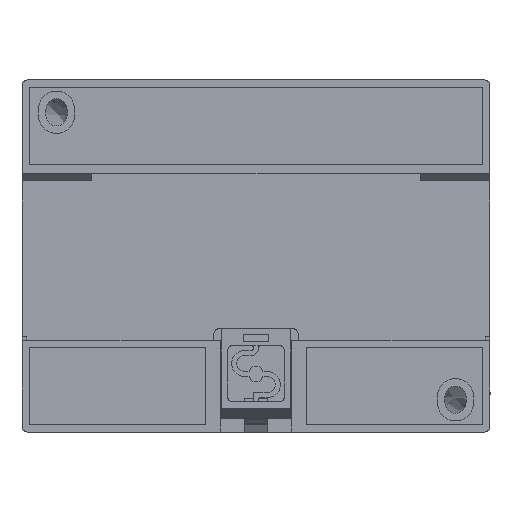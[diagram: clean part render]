
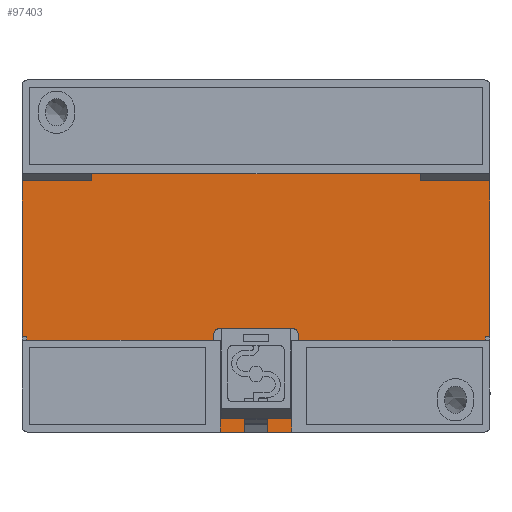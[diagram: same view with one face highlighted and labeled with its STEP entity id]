
A CAD part, front view. The second image highlights one B-rep face of the part: STEP entity #97403.
In plain terms, the highlighted planar face has unit normal (0, -1, 0).
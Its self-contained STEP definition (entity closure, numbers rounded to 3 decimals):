
#8968=CIRCLE('',#100996,1.);
#8969=CIRCLE('',#100997,1.);
#14121=FACE_OUTER_BOUND('',#19732,.T.);
#19732=EDGE_LOOP('',(#88684,#88685,#88686,#88687,#88688,#88689,#88690,#88691,
#88692,#88693,#88694,#88695,#88696,#88697,#88698,#88699,#88700,#88701,#88702,
#88703,#88704,#88705));
#28362=LINE('',#190628,#37208);
#28363=LINE('',#190630,#37209);
#28364=LINE('',#190632,#37210);
#28365=LINE('',#190634,#37211);
#28366=LINE('',#190636,#37212);
#28367=LINE('',#190638,#37213);
#28368=LINE('',#190640,#37214);
#28369=LINE('',#190641,#37215);
#28370=LINE('',#190643,#37216);
#28371=LINE('',#190645,#37217);
#28372=LINE('',#190649,#37218);
#28373=LINE('',#190653,#37219);
#28374=LINE('',#190654,#37220);
#28375=LINE('',#190656,#37221);
#28376=LINE('',#190658,#37222);
#28377=LINE('',#190660,#37223);
#28378=LINE('',#190662,#37224);
#28379=LINE('',#190664,#37225);
#28380=LINE('',#190666,#37226);
#28381=LINE('',#190667,#37227);
#37208=VECTOR('',#116245,1000.);
#37209=VECTOR('',#116246,1000.);
#37210=VECTOR('',#116247,1000.);
#37211=VECTOR('',#116248,1000.);
#37212=VECTOR('',#116249,1000.);
#37213=VECTOR('',#116250,1000.);
#37214=VECTOR('',#116251,1000.);
#37215=VECTOR('',#116252,1000.);
#37216=VECTOR('',#116253,1000.);
#37217=VECTOR('',#116254,1000.);
#37218=VECTOR('',#116257,1000.);
#37219=VECTOR('',#116260,1000.);
#37220=VECTOR('',#116261,1000.);
#37221=VECTOR('',#116262,1000.);
#37222=VECTOR('',#116263,1000.);
#37223=VECTOR('',#116264,1000.);
#37224=VECTOR('',#116265,1000.);
#37225=VECTOR('',#116266,1000.);
#37226=VECTOR('',#116267,1000.);
#37227=VECTOR('',#116268,1000.);
#46666=VERTEX_POINT('',#190616);
#46667=VERTEX_POINT('',#190618);
#46670=VERTEX_POINT('',#190626);
#46671=VERTEX_POINT('',#190627);
#46672=VERTEX_POINT('',#190629);
#46673=VERTEX_POINT('',#190631);
#46674=VERTEX_POINT('',#190633);
#46675=VERTEX_POINT('',#190635);
#46676=VERTEX_POINT('',#190637);
#46677=VERTEX_POINT('',#190639);
#46678=VERTEX_POINT('',#190642);
#46679=VERTEX_POINT('',#190644);
#46680=VERTEX_POINT('',#190646);
#46681=VERTEX_POINT('',#190648);
#46682=VERTEX_POINT('',#190650);
#46683=VERTEX_POINT('',#190652);
#46684=VERTEX_POINT('',#190655);
#46685=VERTEX_POINT('',#190657);
#46686=VERTEX_POINT('',#190659);
#46687=VERTEX_POINT('',#190661);
#46688=VERTEX_POINT('',#190663);
#46689=VERTEX_POINT('',#190665);
#60736=EDGE_CURVE('',#46670,#46671,#28362,.T.);
#60737=EDGE_CURVE('',#46672,#46670,#28363,.T.);
#60738=EDGE_CURVE('',#46672,#46673,#28364,.T.);
#60739=EDGE_CURVE('',#46674,#46673,#28365,.T.);
#60740=EDGE_CURVE('',#46674,#46675,#28366,.T.);
#60741=EDGE_CURVE('',#46676,#46675,#28367,.T.);
#60742=EDGE_CURVE('',#46677,#46676,#28368,.T.);
#60743=EDGE_CURVE('',#46667,#46677,#28369,.T.);
#60744=EDGE_CURVE('',#46667,#46678,#28370,.T.);
#60745=EDGE_CURVE('',#46678,#46679,#28371,.T.);
#60746=EDGE_CURVE('',#46679,#46680,#8968,.T.);
#60747=EDGE_CURVE('',#46681,#46680,#28372,.T.);
#60748=EDGE_CURVE('',#46681,#46682,#8969,.T.);
#60749=EDGE_CURVE('',#46683,#46682,#28373,.T.);
#60750=EDGE_CURVE('',#46683,#46666,#28374,.T.);
#60751=EDGE_CURVE('',#46666,#46684,#28375,.T.);
#60752=EDGE_CURVE('',#46685,#46684,#28376,.T.);
#60753=EDGE_CURVE('',#46685,#46686,#28377,.T.);
#60754=EDGE_CURVE('',#46686,#46687,#28378,.T.);
#60755=EDGE_CURVE('',#46687,#46688,#28379,.T.);
#60756=EDGE_CURVE('',#46689,#46688,#28380,.T.);
#60757=EDGE_CURVE('',#46689,#46671,#28381,.T.);
#88684=ORIENTED_EDGE('',*,*,#60736,.F.);
#88685=ORIENTED_EDGE('',*,*,#60737,.F.);
#88686=ORIENTED_EDGE('',*,*,#60738,.T.);
#88687=ORIENTED_EDGE('',*,*,#60739,.F.);
#88688=ORIENTED_EDGE('',*,*,#60740,.T.);
#88689=ORIENTED_EDGE('',*,*,#60741,.F.);
#88690=ORIENTED_EDGE('',*,*,#60742,.F.);
#88691=ORIENTED_EDGE('',*,*,#60743,.F.);
#88692=ORIENTED_EDGE('',*,*,#60744,.T.);
#88693=ORIENTED_EDGE('',*,*,#60745,.T.);
#88694=ORIENTED_EDGE('',*,*,#60746,.T.);
#88695=ORIENTED_EDGE('',*,*,#60747,.F.);
#88696=ORIENTED_EDGE('',*,*,#60748,.T.);
#88697=ORIENTED_EDGE('',*,*,#60749,.F.);
#88698=ORIENTED_EDGE('',*,*,#60750,.T.);
#88699=ORIENTED_EDGE('',*,*,#60751,.T.);
#88700=ORIENTED_EDGE('',*,*,#60752,.F.);
#88701=ORIENTED_EDGE('',*,*,#60753,.T.);
#88702=ORIENTED_EDGE('',*,*,#60754,.T.);
#88703=ORIENTED_EDGE('',*,*,#60755,.T.);
#88704=ORIENTED_EDGE('',*,*,#60756,.F.);
#88705=ORIENTED_EDGE('',*,*,#60757,.T.);
#92198=PLANE('',#100995);
#97403=ADVANCED_FACE('',(#14121),#92198,.F.);
#100995=AXIS2_PLACEMENT_3D('',#190625,#116243,#116244);
#100996=AXIS2_PLACEMENT_3D('',#190647,#116255,#116256);
#100997=AXIS2_PLACEMENT_3D('',#190651,#116258,#116259);
#116243=DIRECTION('center_axis',(0.,1.,0.));
#116244=DIRECTION('ref_axis',(-1.,0.,0.));
#116245=DIRECTION('',(1.,0.,0.));
#116246=DIRECTION('',(0.,0.,1.));
#116247=DIRECTION('',(1.,0.,0.));
#116248=DIRECTION('',(0.,0.,1.));
#116249=DIRECTION('',(1.,0.,0.));
#116250=DIRECTION('',(0.,0.,1.));
#116251=DIRECTION('',(-1.,0.,0.));
#116252=DIRECTION('',(0.,0.,-1.));
#116253=DIRECTION('',(-1.,0.,0.));
#116254=DIRECTION('',(0.,0.,1.));
#116255=DIRECTION('center_axis',(0.,1.,0.));
#116256=DIRECTION('ref_axis',(0.,0.,
-1.));
#116257=DIRECTION('',(-1.,0.,0.));
#116258=DIRECTION('center_axis',(0.,1.,0.));
#116259=DIRECTION('ref_axis',(0.,0.,
-1.));
#116260=DIRECTION('',(0.,0.,1.));
#116261=DIRECTION('',(-1.,0.,0.));
#116262=DIRECTION('',(0.,0.,-1.));
#116263=DIRECTION('',(-1.,0.,0.));
#116264=DIRECTION('',(0.,0.,1.));
#116265=DIRECTION('',(1.,0.,0.));
#116266=DIRECTION('',(0.,0.,1.));
#116267=DIRECTION('',(-1.,0.,0.));
#116268=DIRECTION('',(0.,0.,1.));
#190616=CARTESIAN_POINT('',(2.5,5.,-32.7));
#190618=CARTESIAN_POINT('',(-2.5,5.,-32.7));
#190625=CARTESIAN_POINT('Origin',(0.,5.,0.));
#190626=CARTESIAN_POINT('',(-49.85,5.,17.5));
#190627=CARTESIAN_POINT('',(49.85,5.,17.5));
#190628=CARTESIAN_POINT('',(-49.85,5.,17.5));
#190629=CARTESIAN_POINT('',(-49.85,5.,-17.2));
#190630=CARTESIAN_POINT('',(-49.85,5.,-18.));
#190631=CARTESIAN_POINT('',(-48.85,5.,-17.2));
#190632=CARTESIAN_POINT('',(-49.85,5.,-17.2));
#190633=CARTESIAN_POINT('',(-48.85,5.,-18.));
#190634=CARTESIAN_POINT('',(-48.85,5.,-18.));
#190635=CARTESIAN_POINT('',(-9.1,5.,-18.));
#190636=CARTESIAN_POINT('',(-49.85,5.,-18.));
#190637=CARTESIAN_POINT('',(-9.1,5.,-37.5));
#190638=CARTESIAN_POINT('',(-9.1,5.,-37.5));
#190639=CARTESIAN_POINT('',(-2.5,5.,-37.5));
#190640=CARTESIAN_POINT('',(-9.1,5.,-37.5));
#190641=CARTESIAN_POINT('',(-2.5,5.,-37.5));
#190642=CARTESIAN_POINT('',(-8.95,5.,-32.7));
#190643=CARTESIAN_POINT('',(8.95,5.,-32.7));
#190644=CARTESIAN_POINT('',(-8.95,5.,-16.5));
#190645=CARTESIAN_POINT('',(-8.95,5.,-32.7));
#190646=CARTESIAN_POINT('',(-7.95,5.,-15.5));
#190647=CARTESIAN_POINT('Origin',(-7.95,5.,-16.5));
#190648=CARTESIAN_POINT('',(7.95,5.,-15.5));
#190649=CARTESIAN_POINT('',(8.95,5.,-15.5));
#190650=CARTESIAN_POINT('',(8.95,5.,-16.5));
#190651=CARTESIAN_POINT('Origin',(7.95,5.,-16.5));
#190652=CARTESIAN_POINT('',(8.95,5.,-32.7));
#190653=CARTESIAN_POINT('',(8.95,5.,-32.7));
#190654=CARTESIAN_POINT('',(8.95,5.,-32.7));
#190655=CARTESIAN_POINT('',(2.5,5.,-37.5));
#190656=CARTESIAN_POINT('',(2.5,5.,-37.5));
#190657=CARTESIAN_POINT('',(9.1,5.,-37.5));
#190658=CARTESIAN_POINT('',(-9.1,5.,-37.5));
#190659=CARTESIAN_POINT('',(9.1,5.,-18.));
#190660=CARTESIAN_POINT('',(9.1,5.,-37.5));
#190661=CARTESIAN_POINT('',(48.85,5.,-18.));
#190662=CARTESIAN_POINT('',(-49.85,5.,-18.));
#190663=CARTESIAN_POINT('',(48.85,5.,-17.2));
#190664=CARTESIAN_POINT('',(48.85,5.,-18.));
#190665=CARTESIAN_POINT('',(49.85,5.,-17.2));
#190666=CARTESIAN_POINT('',(49.85,5.,-17.2));
#190667=CARTESIAN_POINT('',(49.85,5.,-18.));
